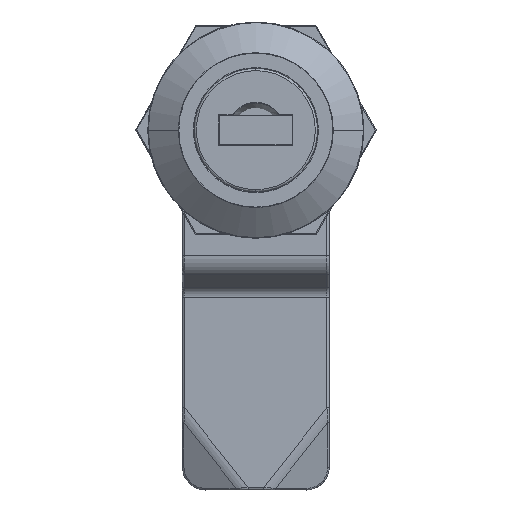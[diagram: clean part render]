
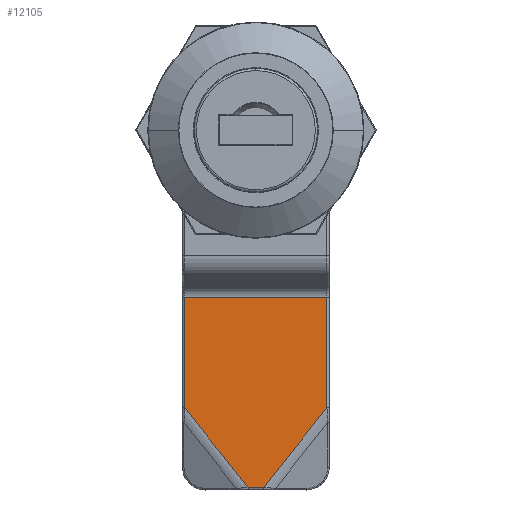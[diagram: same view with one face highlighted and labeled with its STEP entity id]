
A CAD part, top view. The second image highlights one B-rep face of the part: STEP entity #12105.
In plain terms, the highlighted planar face has unit normal (0, 0, 1).
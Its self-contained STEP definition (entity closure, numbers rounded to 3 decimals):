
#11955 = EDGE_CURVE ( 'NONE', #11956, #11957, #15380, .T. ) ;
#11956 = VERTEX_POINT ( 'NONE', #15373 ) ;
#11957 = VERTEX_POINT ( 'NONE', #15372 ) ;
#11970 = ORIENTED_EDGE ( 'NONE', *, *, #11971, .F. ) ;
#11971 = EDGE_CURVE ( 'NONE', #11972, #11957, #15354, .T. ) ;
#11972 = VERTEX_POINT ( 'NONE', #15415 ) ;
#11973 = ORIENTED_EDGE ( 'NONE', *, *, #11974, .F. ) ;
#11974 = EDGE_CURVE ( 'NONE', #12019, #11972, #15414, .T. ) ;
#11976 = ORIENTED_EDGE ( 'NONE', *, *, #12018, .T. ) ;
#11977 = ORIENTED_EDGE ( 'NONE', *, *, #12049, .T. ) ;
#11978 = ORIENTED_EDGE ( 'NONE', *, *, #11979, .F. ) ;
#11979 = EDGE_CURVE ( 'NONE', #11956, #12047, #15410, .T. ) ;
#12018 = EDGE_CURVE ( 'NONE', #12019, #12020, #15493, .T. ) ;
#12019 = VERTEX_POINT ( 'NONE', #15489 ) ;
#12020 = VERTEX_POINT ( 'NONE', #15488 ) ;
#12047 = VERTEX_POINT ( 'NONE', #15742 ) ;
#12049 = EDGE_CURVE ( 'NONE', #12020, #12047, #15890, .T. ) ;
#12080 = ORIENTED_EDGE ( 'NONE', *, *, #11955, .T. ) ;
#12105 = ADVANCED_FACE ( 'NONE', ( #16464 ), #16459, .T. ) ;
#12106 = EDGE_LOOP ( 'NONE', ( #11970, #11973, #11976, #11977, #11978, #12080 ) ) ;
#15351 = DIRECTION ( 'NONE',  ( 0., 1., 0. ) ) ;
#15352 = VECTOR ( 'NONE', #15351, 1000. ) ;
#15353 = CARTESIAN_POINT ( 'NONE',  ( 160.493, 162.876, -22.681 ) ) ;
#15354 = LINE ( 'NONE', #15353, #15352 ) ;
#15372 = CARTESIAN_POINT ( 'NONE',  ( 160.493, 163.226, -22.681 ) ) ;
#15373 = CARTESIAN_POINT ( 'NONE',  ( 178.893, 163.226, -22.681 ) ) ;
#15374 = DIRECTION ( 'NONE',  ( -1., 0., 0. ) ) ;
#15375 = VECTOR ( 'NONE', #15374, 1000. ) ;
#15376 = CARTESIAN_POINT ( 'NONE',  ( 179.193, 163.226, -22.681 ) ) ;
#15380 = LINE ( 'NONE', #15376, #15375 ) ;
#15407 = DIRECTION ( 'NONE',  ( 0., -1., 0. ) ) ;
#15408 = VECTOR ( 'NONE', #15407, 1000. ) ;
#15409 = CARTESIAN_POINT ( 'NONE',  ( 178.893, 165.108, -22.681 ) ) ;
#15410 = LINE ( 'NONE', #15409, #15408 ) ;
#15411 = DIRECTION ( 'NONE',  ( -0.621, 0.784, 0. ) ) ;
#15412 = VECTOR ( 'NONE', #15411, 1000. ) ;
#15413 = CARTESIAN_POINT ( 'NONE',  ( 169.221, 137.957, -22.681 ) ) ;
#15414 = LINE ( 'NONE', #15413, #15412 ) ;
#15415 = CARTESIAN_POINT ( 'NONE',  ( 160.493, 148.981, -22.681 ) ) ;
#15488 = CARTESIAN_POINT ( 'NONE',  ( 170.7, 138.631, -22.681 ) ) ;
#15489 = CARTESIAN_POINT ( 'NONE',  ( 168.687, 138.631, -22.681 ) ) ;
#15490 = DIRECTION ( 'NONE',  ( 1., 0., 0. ) ) ;
#15491 = VECTOR ( 'NONE', #15490, 1000. ) ;
#15492 = CARTESIAN_POINT ( 'NONE',  ( 179.193, 138.631, -22.681 ) ) ;
#15493 = LINE ( 'NONE', #15492, #15491 ) ;
#15742 = CARTESIAN_POINT ( 'NONE',  ( 178.893, 148.981, -22.681 ) ) ;
#15886 = DIRECTION ( 'NONE',  ( 0.621, 0.784, 0. ) ) ;
#15888 = VECTOR ( 'NONE', #15886, 1000. ) ;
#15889 = CARTESIAN_POINT ( 'NONE',  ( 170.7, 138.631, -22.681 ) ) ;
#15890 = LINE ( 'NONE', #15889, #15888 ) ;
#16452 = DIRECTION ( 'NONE',  ( 0., -1., 0. ) ) ;
#16454 = DIRECTION ( 'NONE',  ( 0., 0., 1. ) ) ;
#16456 = CARTESIAN_POINT ( 'NONE',  ( 179.193, 163.226, -22.681 ) ) ;
#16458 = AXIS2_PLACEMENT_3D ( 'NONE', #16456, #16454, #16452 ) ;
#16459 = PLANE ( 'NONE',  #16458 ) ;
#16464 = FACE_OUTER_BOUND ( 'NONE', #12106, .T. ) ;
